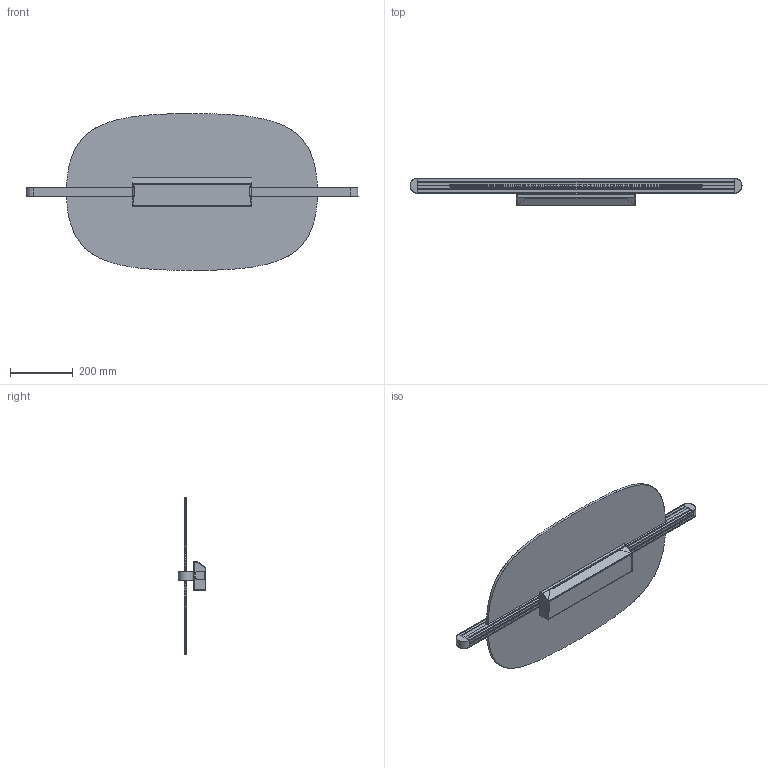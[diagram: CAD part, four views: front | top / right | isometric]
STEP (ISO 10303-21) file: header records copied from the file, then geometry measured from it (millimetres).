
FILE_DESCRIPTION(/* description */ (''),/* implementation_level */ '2;1');
FILE_NAME(/* name */ '1906-3~4',/* time_stamp */ '2021-06-09T16:24:29+02:00',/* author */ (''),/* organization */ (''),/* preprocessor_version */ 'ST-DEVELOPER v16.5',/* originating_system */ '',/* authorisation */ '');
FILE_SCHEMA (('CONFIG_CONTROL_DESIGN'));
Length unit declared in the file: millimetre
Products named in the file (4): Document; PLA.005070; MET.005548; MET.005602
Assembly tree (6 placements, depth 2):
  Document
    PLA.005070  x4
    MET.005548
    MET.005602
Bounding box: 1058.46 x 88.5 x 499.96 mm (x, y, z)
Volume: 3510864.3 mm3; surface area: 1473527.8 mm2
Topology: 13 solids, 15 shells, 1086 faces, 3164 edges, 2093 vertices
Faces by surface type: plane 818, cylinder 238, bspline 30
Entity records: 31945 total; most frequent: CARTESIAN_POINT 11844, ORIENTED_EDGE 5992, EDGE_CURVE 3012, B_SPLINE_CURVE_WITH_KNOTS 2503, VERTEX_POINT 1997, EDGE_LOOP 1053, ADVANCED_FACE 1032, FACE_OUTER_BOUND 1032
